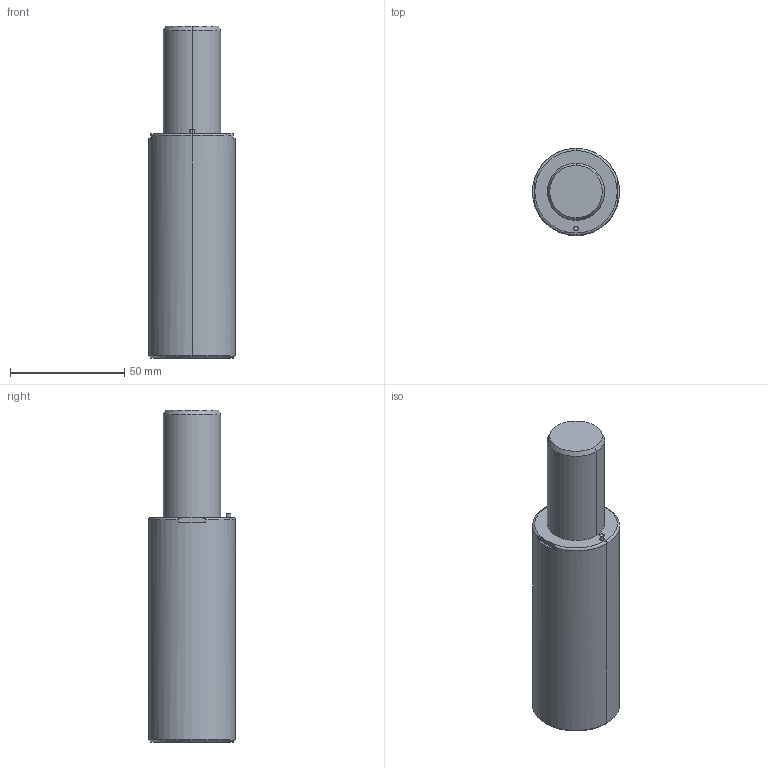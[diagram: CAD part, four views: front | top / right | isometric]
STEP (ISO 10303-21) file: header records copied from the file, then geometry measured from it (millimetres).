
FILE_DESCRIPTION(/* description */ (''),/* implementation_level */ '2;1');
FILE_NAME(/* name */ '3d_gsx38-45_03965_r00.stp',/* time_stamp */ '2011-01-10T14:15:13+09:00',/* author */ ('MISUMI'),/* organization */ (''),/* preprocessor_version */ 'ST-DEVELOPER v11',/* originating_system */ 'UGS - NX 5.0',/* authorisation */ '');
FILE_SCHEMA (('CONFIG_CONTROL_DESIGN'));
Length unit declared in the file: millimetre
Products named in the file (1): 3d_gsx38-45_03965_r00
Bounding box: 38 x 38 x 145 mm (x, y, z)
Volume: 132151.3 mm3; surface area: 18779.6 mm2
Topology: 1 solids, 1 shells, 59 faces, 128 edges, 76 vertices
Faces by surface type: cylinder 28, plane 15, cone 12, torus 4
Entity records: 1718 total; most frequent: CARTESIAN_POINT 328, DIRECTION 306, ORIENTED_EDGE 240, AXIS2_PLACEMENT_3D 130, EDGE_CURVE 120, VERTEX_POINT 76, EDGE_LOOP 72, CIRCLE 70
